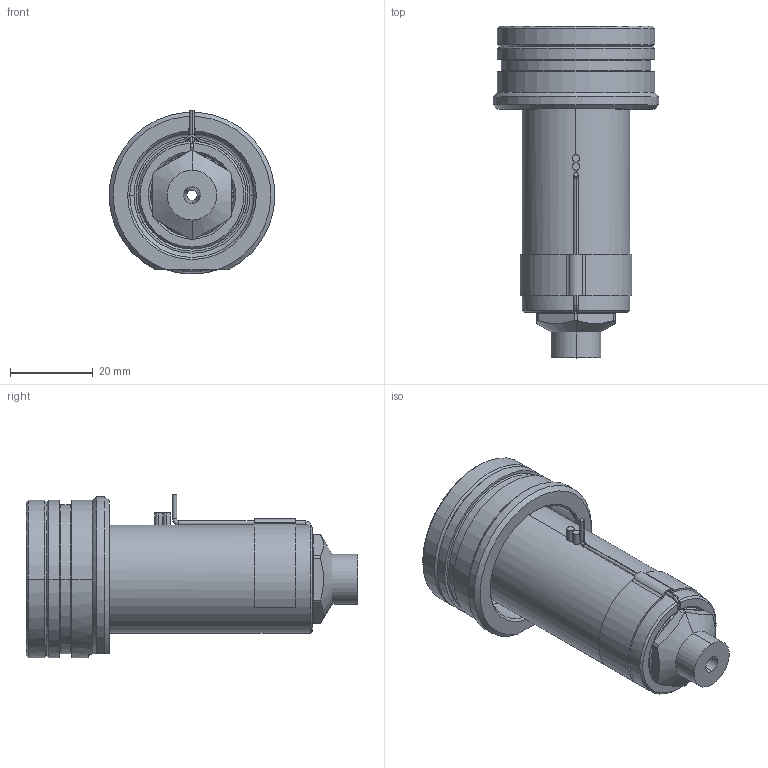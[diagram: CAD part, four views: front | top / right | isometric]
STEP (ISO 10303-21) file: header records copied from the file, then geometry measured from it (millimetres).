
FILE_DESCRIPTION((''),'2;1');
FILE_NAME('EO08_VG-ST_STD_060_SW','2024-02-19T12:41:50',('sundharh'),(''),'CREO PARAMETRIC BY PTC INC, 2023154','CREO PARAMETRIC BY PTC INC, 2023154','');
FILE_SCHEMA(('CONFIG_CONTROL_DESIGN'));
Length unit declared in the file: millimetre
Products named in the file (1): EO08_VG-ST_STD_060_SW
Bounding box: 39.88 x 80 x 39.52 mm (x, y, z)
Volume: 44881.6 mm3; surface area: 14263.6 mm2
Topology: 1 solids, 1 shells, 174 faces, 438 edges, 269 vertices
Faces by surface type: cylinder 64, plane 44, cone 37, torus 19, bspline 8, sphere 2
Entity records: 6457 total; most frequent: CARTESIAN_POINT 2193, DIRECTION 941, ORIENTED_EDGE 868, EDGE_CURVE 434, AXIS2_PLACEMENT_3D 390, VERTEX_POINT 269, CIRCLE 224, EDGE_LOOP 189
